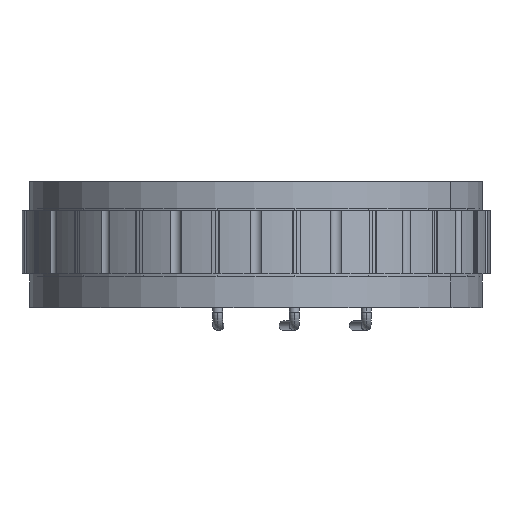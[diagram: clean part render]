
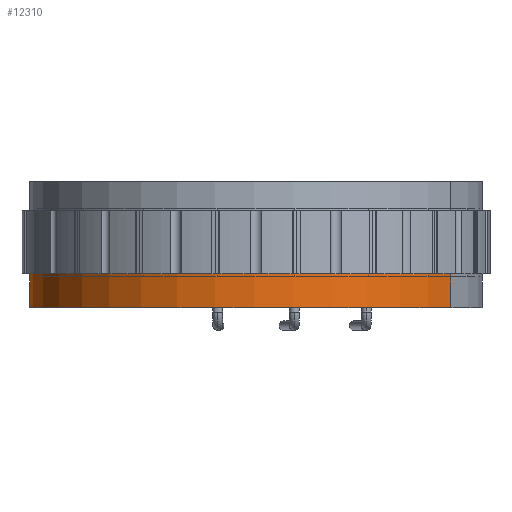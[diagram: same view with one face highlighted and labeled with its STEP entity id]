
A CAD part, front view. The second image highlights one B-rep face of the part: STEP entity #12310.
In plain terms, the highlighted cylindrical face has radius 50.25 mm (diameter 100.5 mm), a partial arc.
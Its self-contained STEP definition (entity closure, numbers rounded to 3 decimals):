
#218 = DIRECTION ( 'NONE',  ( 1., 0., 0. ) ) ;
#284 = CARTESIAN_POINT ( 'NONE',  ( -50.25, 0., -28. ) ) ;
#1415 = DIRECTION ( 'NONE',  ( -1., 0., 0. ) ) ;
#1498 = VECTOR ( 'NONE', #25709, 1000. ) ;
#1552 = VERTEX_POINT ( 'NONE', #7589 ) ;
#1682 = AXIS2_PLACEMENT_3D ( 'NONE', #14274, #1858, #218 ) ;
#1858 = DIRECTION ( 'NONE',  ( 0., 0., 1. ) ) ;
#2672 = CIRCLE ( 'NONE', #21825, 50.25 ) ;
#2944 = ORIENTED_EDGE ( 'NONE', *, *, #12295, .T. ) ;
#2953 = CARTESIAN_POINT ( 'NONE',  ( 50.25, 0., -28. ) ) ;
#4497 = CARTESIAN_POINT ( 'NONE',  ( 50.25, 0., -20.5 ) ) ;
#6043 = AXIS2_PLACEMENT_3D ( 'NONE', #10307, #20543, #18504 ) ;
#7589 = CARTESIAN_POINT ( 'NONE',  ( -50.25, 0., -20.5 ) ) ;
#8687 = ORIENTED_EDGE ( 'NONE', *, *, #12733, .T. ) ;
#9438 = EDGE_CURVE ( 'NONE', #13173, #24881, #19449, .T. ) ;
#9602 = CARTESIAN_POINT ( 'NONE',  ( 0., 0., -28. ) ) ;
#10307 = CARTESIAN_POINT ( 'NONE',  ( 0., 0., -20.5 ) ) ;
#12295 = EDGE_CURVE ( 'NONE', #1552, #24881, #18235, .T. ) ;
#12310 = ADVANCED_FACE ( 'NONE', ( #16597 ), #20816, .T. ) ;
#12373 = VECTOR ( 'NONE', #24842, 1000. ) ;
#12733 = EDGE_CURVE ( 'NONE', #23322, #1552, #16670, .T. ) ;
#12802 = CARTESIAN_POINT ( 'NONE',  ( 50.25, 0., -28. ) ) ;
#13173 = VERTEX_POINT ( 'NONE', #12802 ) ;
#14274 = CARTESIAN_POINT ( 'NONE',  ( 0., 0., -28. ) ) ;
#14855 = EDGE_LOOP ( 'NONE', ( #17056, #8687, #2944, #23340 ) ) ;
#15869 = DIRECTION ( 'NONE',  ( 0., 0., -1. ) ) ;
#16597 = FACE_OUTER_BOUND ( 'NONE', #14855, .T. ) ;
#16670 = LINE ( 'NONE', #284, #12373 ) ;
#17056 = ORIENTED_EDGE ( 'NONE', *, *, #21604, .F. ) ;
#17975 = CARTESIAN_POINT ( 'NONE',  ( -50.25, 0., -28. ) ) ;
#18235 = CIRCLE ( 'NONE', #6043, 50.25 ) ;
#18504 = DIRECTION ( 'NONE',  ( -1., 0., 0. ) ) ;
#19449 = LINE ( 'NONE', #2953, #1498 ) ;
#20543 = DIRECTION ( 'NONE',  ( 0., 0., -1. ) ) ;
#20816 = CYLINDRICAL_SURFACE ( 'NONE', #1682, 50.25 ) ;
#21604 = EDGE_CURVE ( 'NONE', #23322, #13173, #2672, .T. ) ;
#21825 = AXIS2_PLACEMENT_3D ( 'NONE', #9602, #15869, #1415 ) ;
#23322 = VERTEX_POINT ( 'NONE', #17975 ) ;
#23340 = ORIENTED_EDGE ( 'NONE', *, *, #9438, .F. ) ;
#24842 = DIRECTION ( 'NONE',  ( 0., 0., 1. ) ) ;
#24881 = VERTEX_POINT ( 'NONE', #4497 ) ;
#25709 = DIRECTION ( 'NONE',  ( 0., 0., 1. ) ) ;
